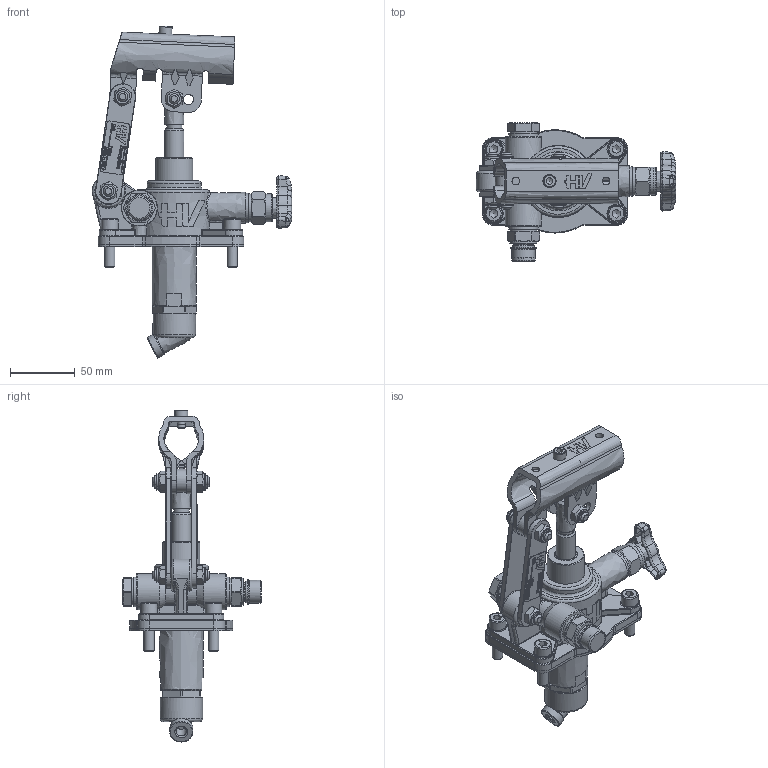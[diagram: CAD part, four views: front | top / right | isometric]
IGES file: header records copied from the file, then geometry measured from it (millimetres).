
Global section: file name: 6050.6000; native system: Autodesk Inventor 2026; preprocessor: unknown; author: christian.scardovi; date: 20260212.143017; units: millimetre
Bounding box: 154.5 x 107.5 x 257.36 mm (x, y, z)
Volume: 375273.2 mm3; surface area: 165625.4 mm2
Topology: 41 solids, 41 shells, 1890 faces, 4815 edges, 3097 vertices
Faces by surface type: bspline 1890
